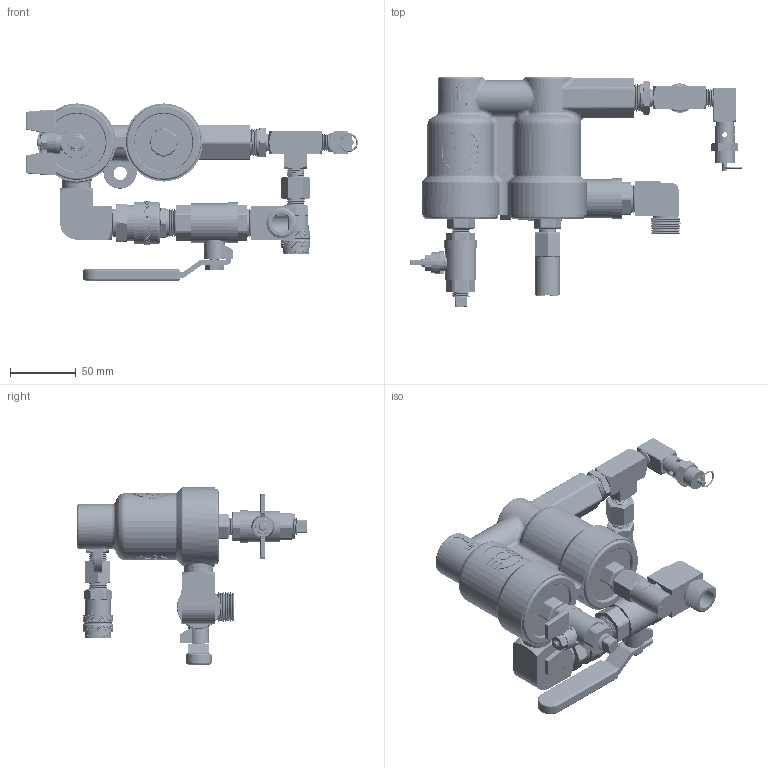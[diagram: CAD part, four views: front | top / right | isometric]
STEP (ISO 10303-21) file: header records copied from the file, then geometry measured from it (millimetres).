
FILE_DESCRIPTION(/* description */ (''),/* implementation_level */ '2;1');
FILE_NAME(/* name */ 'PAV-WNS.stp',/* time_stamp */ '2023-03-03T15:30:55-06:00',/* author */ ('atroll'),/* organization */ (''),/* preprocessor_version */ 'ST-DEVELOPER v19.2',/* originating_system */ 'Autodesk Inventor 2023',/* authorisation */ '');
FILE_SCHEMA (('AUTOMOTIVE_DESIGN { 1 0 10303 214 3 1 1 }'));
Length unit declared in the file: inch
Products named in the file (1): PAV-WNS_Simplify
Bounding box: 252.65 x 175.16 x 134.78 mm (x, y, z)
Volume: 705734 mm3; surface area: 113913 mm2
Topology: 2 solids, 2 shells, 10051 faces, 23087 edges, 12756 vertices
Faces by surface type: plane 8307, cylinder 1226, cone 241, bspline 205, torus 38, sphere 34
Full cylindrical faces by diameter (mm): 1.905 x1, 3.81 x5, 5.527 x9, 6.221 x8, 6.272 x1, 6.35 x2, 6.729 x1, 7.057 x5, 7.785 x4, 7.836 x1, 9.93 x1, 10.084 x1, 12.494 x1, 12.7 x1, 13.716 x7, 13.998 x1, 15.088 x2, 15.24 x2, 15.621 x1, 17.856 x1, 18.197 x1, 18.689 x1, 19.05 x2, 19.352 x1, 19.606 x1, 19.66 x1, 19.86 x3, 21.13 x1, 21.336 x5, 21.749 x1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
Entity records: 308767 total; most frequent: CARTESIAN_POINT 70781, DIRECTION 50399, ORIENTED_EDGE 46132, EDGE_CURVE 23066, AXIS2_PLACEMENT_3D 18305, LINE 13789, VECTOR 13789, VERTEX_POINT 12756
